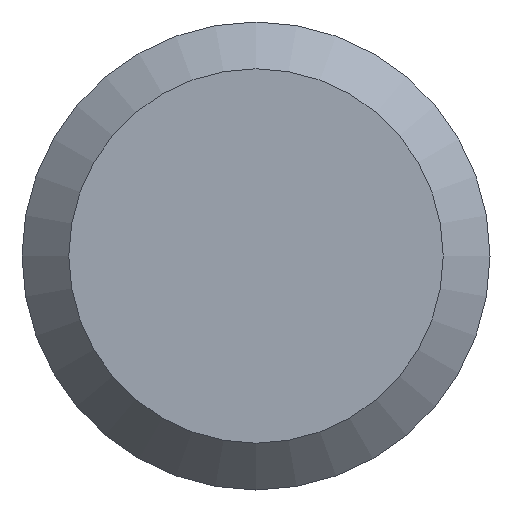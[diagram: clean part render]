
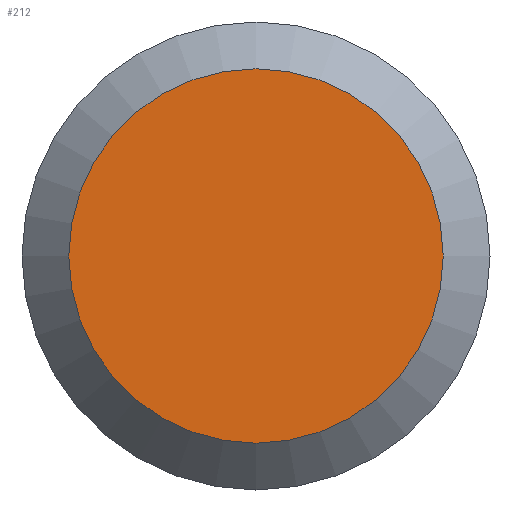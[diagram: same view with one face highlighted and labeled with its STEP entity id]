
A CAD part, left-side view. The second image highlights one B-rep face of the part: STEP entity #212.
In plain terms, the highlighted planar face has unit normal (-1, 0, 0).
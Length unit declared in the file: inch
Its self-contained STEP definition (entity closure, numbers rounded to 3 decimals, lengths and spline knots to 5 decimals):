
#1 = CARTESIAN_POINT ( 'NONE',  ( 0., 0.1385, 0. ) ) ;
#15 = EDGE_LOOP ( 'NONE', ( #18 ) ) ;
#18 = ORIENTED_EDGE ( 'NONE', *, *, #114, .T. ) ;
#34 = VERTEX_POINT ( 'NONE', #94 ) ;
#47 = CIRCLE ( 'NONE', #92, 0.1108 ) ;
#92 = AXIS2_PLACEMENT_3D ( 'NONE', #168, #200, #241 ) ;
#94 = CARTESIAN_POINT ( 'NONE',  ( 0., 0., -0.1108 ) ) ;
#104 = DIRECTION ( 'NONE',  ( 1., 0., 0. ) ) ;
#114 = EDGE_CURVE ( 'NONE', #34, #34, #47, .T. ) ;
#154 = DIRECTION ( 'NONE',  ( 0., 0., -1. ) ) ;
#168 = CARTESIAN_POINT ( 'NONE',  ( 0., 0., 0. ) ) ;
#180 = PLANE ( 'NONE',  #227 ) ;
#200 = DIRECTION ( 'NONE',  ( -1., 0., 0. ) ) ;
#212 = ADVANCED_FACE ( 'NONE', ( #214 ), #180, .F. ) ;
#214 = FACE_OUTER_BOUND ( 'NONE', #15, .T. ) ;
#227 = AXIS2_PLACEMENT_3D ( 'NONE', #1, #104, #154 ) ;
#241 = DIRECTION ( 'NONE',  ( 0., 0., -1. ) ) ;
